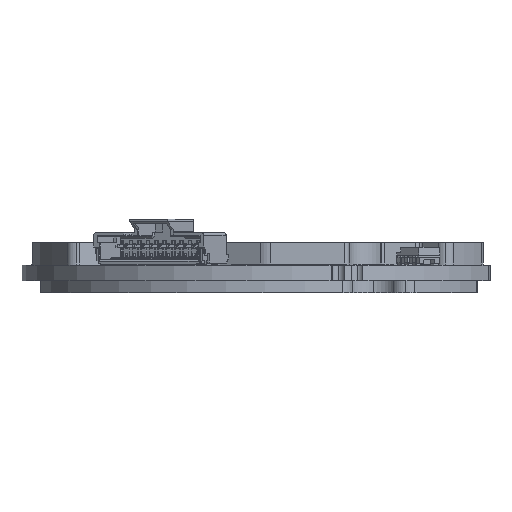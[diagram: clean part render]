
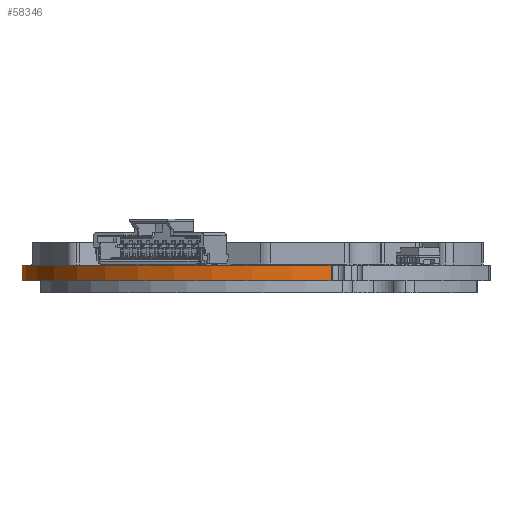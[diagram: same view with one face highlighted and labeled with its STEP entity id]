
A CAD part, left-side view. The second image highlights one B-rep face of the part: STEP entity #58346.
In plain terms, the highlighted cylindrical face has radius 25 mm (diameter 50 mm), a partial arc.
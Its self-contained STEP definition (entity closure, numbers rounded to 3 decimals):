
#1240 = CARTESIAN_POINT ( 'NONE',  ( 21.476, 47.759, -1.603 ) ) ;
#1358 = EDGE_CURVE ( 'NONE', #19799, #56555, #53611, .T. ) ;
#2009 = ORIENTED_EDGE ( 'NONE', *, *, #33845, .T. ) ;
#5100 = DIRECTION ( 'NONE',  ( 0., 0., 1. ) ) ;
#6010 = ORIENTED_EDGE ( 'NONE', *, *, #1358, .F. ) ;
#8913 = LINE ( 'NONE', #57393, #45454 ) ;
#9437 = DIRECTION ( 'NONE',  ( 0., 0., 1. ) ) ;
#9524 = LINE ( 'NONE', #45993, #28131 ) ;
#12720 = DIRECTION ( 'NONE',  ( 0., 0., 1. ) ) ;
#14009 = DIRECTION ( 'NONE',  ( 0., 0., 1. ) ) ;
#14944 = DIRECTION ( 'NONE',  ( 0.418, -0.909, 0. ) ) ;
#14986 = AXIS2_PLACEMENT_3D ( 'NONE', #61395, #9437, #14944 ) ;
#17569 = CARTESIAN_POINT ( 'NONE',  ( 21.476, 47.759, 0. ) ) ;
#18214 = DIRECTION ( 'NONE',  ( 0.418, -0.909, 0. ) ) ;
#19799 = VERTEX_POINT ( 'NONE', #17569 ) ;
#20486 = CYLINDRICAL_SURFACE ( 'NONE', #35934, 25. ) ;
#27299 = EDGE_CURVE ( 'NONE', #48099, #47805, #55647, .T. ) ;
#27884 = CARTESIAN_POINT ( 'NONE',  ( 17.999, 23.002, 0. ) ) ;
#28131 = VECTOR ( 'NONE', #14009, 1000. ) ;
#32189 = DIRECTION ( 'NONE',  ( 0.418, -0.909, 0. ) ) ;
#33845 = EDGE_CURVE ( 'NONE', #47805, #56555, #8913, .T. ) ;
#35934 = AXIS2_PLACEMENT_3D ( 'NONE', #57633, #42500, #32189 ) ;
#40007 = ORIENTED_EDGE ( 'NONE', *, *, #40663, .F. ) ;
#40663 = EDGE_CURVE ( 'NONE', #48099, #19799, #9524, .T. ) ;
#42500 = DIRECTION ( 'NONE',  ( 0., 0., -1. ) ) ;
#45454 = VECTOR ( 'NONE', #5100, 1000. ) ;
#45993 = CARTESIAN_POINT ( 'NONE',  ( 21.476, 47.759, -1.603 ) ) ;
#47805 = VERTEX_POINT ( 'NONE', #60489 ) ;
#48099 = VERTEX_POINT ( 'NONE', #1240 ) ;
#53611 = CIRCLE ( 'NONE', #56869, 25. ) ;
#55647 = CIRCLE ( 'NONE', #14986, 25. ) ;
#56555 = VERTEX_POINT ( 'NONE', #60985 ) ;
#56869 = AXIS2_PLACEMENT_3D ( 'NONE', #27884, #12720, #18214 ) ;
#57393 = CARTESIAN_POINT ( 'NONE',  ( -6.074, 16.259, -1.603 ) ) ;
#57633 = CARTESIAN_POINT ( 'NONE',  ( 17.999, 23.002, -1.603 ) ) ;
#58346 = ADVANCED_FACE ( 'NONE', ( #67627 ), #20486, .T. ) ;
#60489 = CARTESIAN_POINT ( 'NONE',  ( -6.074, 16.259, -1.603 ) ) ;
#60985 = CARTESIAN_POINT ( 'NONE',  ( -6.074, 16.259, 0. ) ) ;
#61395 = CARTESIAN_POINT ( 'NONE',  ( 17.999, 23.002, -1.603 ) ) ;
#62467 = EDGE_LOOP ( 'NONE', ( #66038, #2009, #6010, #40007 ) ) ;
#66038 = ORIENTED_EDGE ( 'NONE', *, *, #27299, .T. ) ;
#67627 = FACE_OUTER_BOUND ( 'NONE', #62467, .T. ) ;
